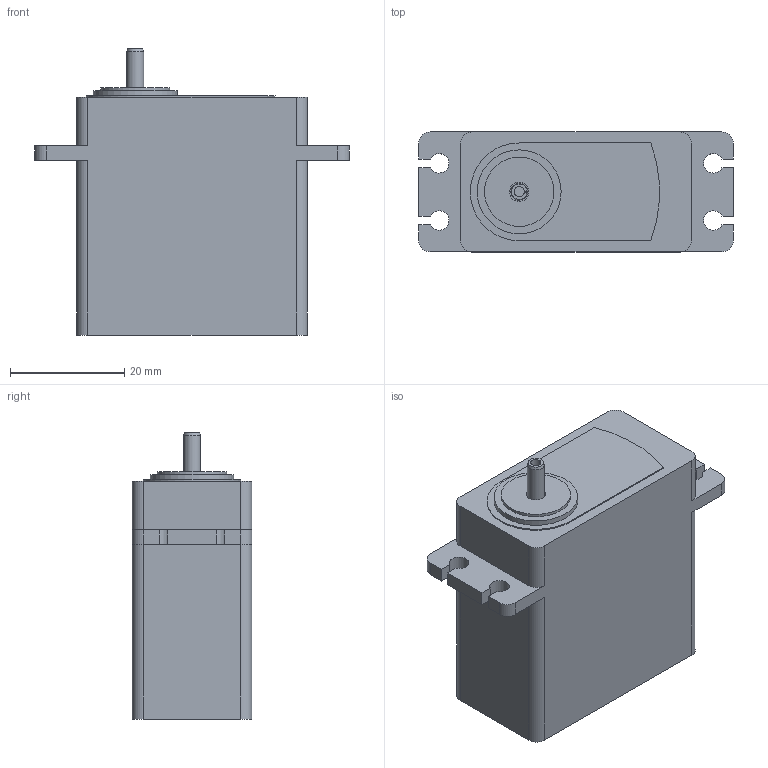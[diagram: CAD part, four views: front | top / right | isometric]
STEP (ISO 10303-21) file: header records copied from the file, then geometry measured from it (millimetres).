
FILE_DESCRIPTION(('FreeCAD Model'),'2;1');
FILE_NAME('Open CASCADE Shape Model','2023-05-06T18:44:57',('Author'),( ''),'Open CASCADE STEP processor 7.5','FreeCAD','Unknown');
FILE_SCHEMA(('AUTOMOTIVE_DESIGN { 1 0 10303 214 1 1 1 1 }'));
Length unit declared in the file: millimetre
Products named in the file (3): servomotor_gx70; spring pin slotted_hd_iso_ISO 8752 - 3 x 14 - St; GXServo_X70
Assembly tree (2 placements, depth 2):
  servomotor_gx70
    GXServo_X70
    spring pin slotted_hd_iso_ISO 8752 - 3 x 14 - St
Bounding box: 55.1 x 21 x 50.15 mm (x, y, z)
Volume: 36295.3 mm3; surface area: 7710.5 mm2
Topology: 2 solids, 2 shells, 61 faces, 159 edges, 106 vertices
Faces by surface type: plane 36, cylinder 23, cone 2
Full cylindrical faces by diameter (mm): 3.4 x1, 12.15 x1, 14.7 x1
Entity records: 1987 total; most frequent: DIRECTION 336, CARTESIAN_POINT 328, ORIENTED_EDGE 312, EDGE_CURVE 156, AXIS2_PLACEMENT_3D 114, VECTOR 108, LINE 108, VERTEX_POINT 106
